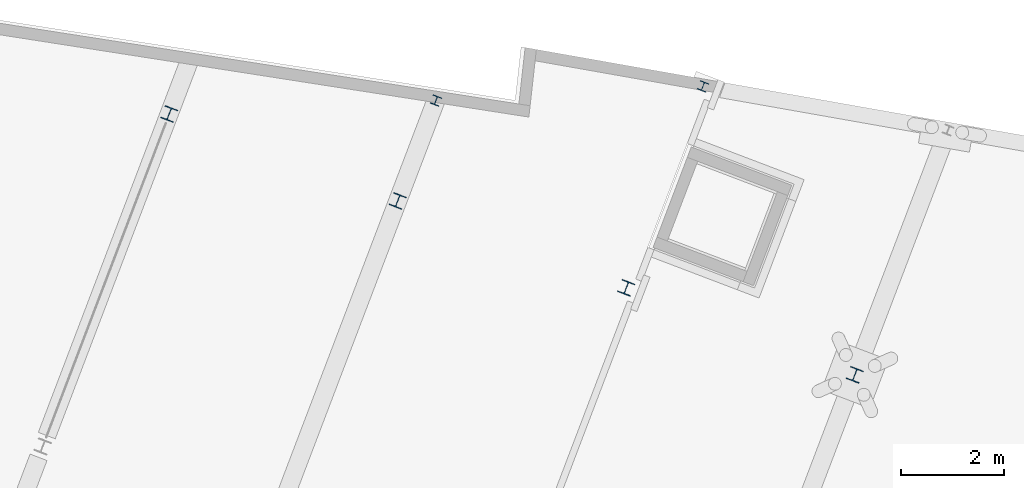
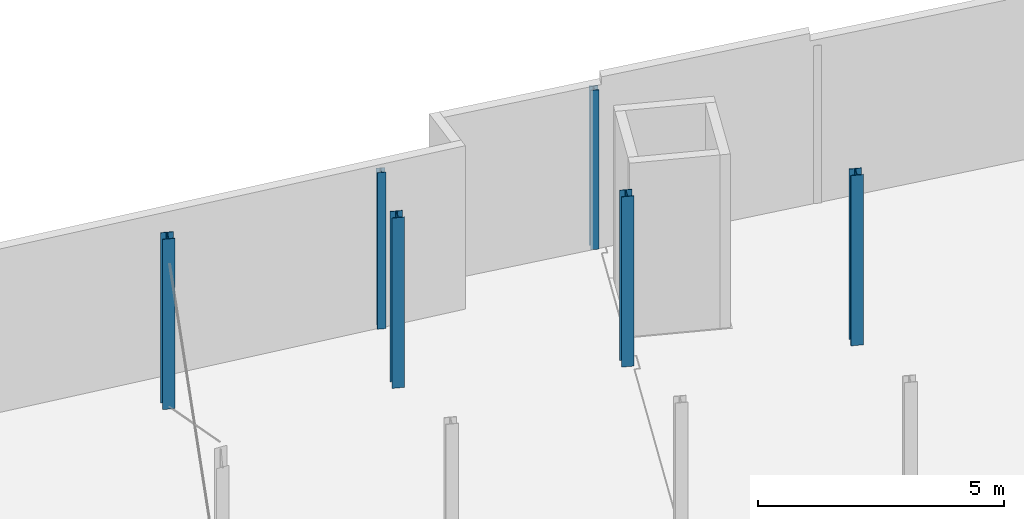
# One storey, part 35 of 46: 6 columns.
"""IFC2X3 building model written with IfcOpenShell, lengths in millimetres."""

from ifc_helpers import new_model, entity, si_unit, converted_unit, derived_unit, direction, frame, frame_2d, origin, origin_2d_with_axis, place, context, subcontext, project, spatial, i_section, extrude, source, transform, mapped, material, type_object, type_shapes, element, save


model = new_model("IFC2X3")

# Units and contexts
model_context = context("Model", 3, precision=0.01, world=origin(), true_north=direction((6.123233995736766e-17, 1.0)))
body_context = subcontext(model_context, "Body", "Model", "MODEL_VIEW")
ifc_project = project(units=[si_unit("LENGTHUNIT", "METRE", prefix="MILLI"), converted_unit("PLANEANGLEUNIT", "DEGREE", entity("IfcPlaneAngleMeasure", 0.017453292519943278), si_unit("PLANEANGLEUNIT", "RADIAN"), dimensions=[0, 0, 0, 0, 0, 0, 0]), si_unit("AREAUNIT", "SQUARE_METRE"), derived_unit("THERMALTRANSMITTANCEUNIT", [(si_unit("MASSUNIT", "GRAM", prefix="KILO"), 1), (si_unit("THERMODYNAMICTEMPERATUREUNIT", "KELVIN"), -1), (si_unit("TIMEUNIT", "SECOND"), -3)])], contexts=[model_context])

# Site, building, storey
site_placement = place(None, frame((-72937.88054949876, 11621.45624098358, 0.0), z_axis=(0.0, 0.0, 1.0), x_axis=(0.9346418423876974, -0.35559053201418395, 0.0)))
site = spatial("IfcSite", under=ifc_project, at=site_placement, Name="Default", CompositionType="ELEMENT")
building_placement = place(site_placement, origin())
building = spatial("IfcBuilding", under=site, at=building_placement, CompositionType="ELEMENT")
storey_placement = place(building_placement, origin())
storey = spatial("IfcBuildingStorey", under=building, at=storey_placement, Name="00 begane grond", CompositionType="ELEMENT", Elevation=0.0)

# Columns
ifc_material = material(Name="metaal_staal_generiek")
column_type_1 = type_object("IfcColumnType", Name="DIE26", PredefinedType="COLUMN", material=ifc_material)
shared_shape_1 = source(origin(), body_context, "Body", "SweptSolid", [
    extrude(i_section(OverallWidth=260.0, OverallDepth=249.99999999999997, WebThickness=7.499999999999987, FlangeThickness=12.5, FilletRadius=24.0, at=origin_2d_with_axis()), frame((0.0, 0.0, -60.0), z_axis=(0.0, 0.0, 1.0), x_axis=(-1.0, 0.0, 0.0)), (0.0, 0.0, 1.0), 4230.0),
])
type_shapes(column_type_1, [shared_shape_1])
for number, where in (
    (1, (57570.0, 28760.0, 0.0)),
    (2, (52840.0, 28760.0, 0.0)),
    (3, (48110.0, 28760.0, 0.0)),
    (4, (43380.0, 28760.0, 0.0)),
):
    element("IfcColumn", number, at=place(storey_placement, frame(where)), inside=storey, type_object=column_type_1, material=ifc_material, Name="28.11_SCO_KolomHEA:DIE26", ObjectType="28.11_SCO_KolomHEA:DIE26", context=body_context, shape_type="MappedRepresentation", body=[
        mapped(shared_shape_1, transform((0.0, 0.0, 0.0), scale=1.0)),
    ])
column_type_2 = type_object("IfcColumnType", Name="DIE18", PredefinedType="COLUMN", material=ifc_material)
shared_shape_2 = source(origin(), body_context, "Body", "SweptSolid", [
    extrude(i_section(OverallWidth=180.0000000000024, OverallDepth=171.0000000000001, WebThickness=5.999999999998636, FlangeThickness=9.500000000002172, FilletRadius=15.0, at=frame_2d((4.334310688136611e-12, 2.1671553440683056e-12), x_axis=(1.0, 0.0))), frame((48110.0, 30838.042665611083, -60.0), z_axis=(0.0, 0.0, 1.0), x_axis=(-1.0, 0.0, 0.0)), (0.0, 0.0, 1.0), 3888.999999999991),
])
type_shapes(column_type_2, [shared_shape_2])
column_1_placement = place(storey_placement, origin())
element("IfcColumn", 5, at=column_1_placement, inside=storey, type_object=column_type_2, material=ifc_material, Name="28.11_SCO_KolomHEA:DIE18", ObjectType="28.11_SCO_KolomHEA:DIE18", context=body_context, shape_type="MappedRepresentation", body=[
    mapped(shared_shape_2, transform((0.0, 0.0, 0.0), scale=1.0)),
])
column_type_3 = type_object("IfcColumnType", Name="DIE18", PredefinedType="COLUMN", material=ifc_material)
shared_shape_3 = source(origin(), body_context, "Body", "SweptSolid", [
    extrude(i_section(OverallWidth=180.0000000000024, OverallDepth=171.0000000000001, WebThickness=5.999999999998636, FlangeThickness=9.500000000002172, FilletRadius=15.0, at=frame_2d((-4.334310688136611e-12, 6.494360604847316e-12), x_axis=(1.0, 0.0))), frame((52840.0, 32931.269201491, -60.0), z_axis=(0.0, 0.0, 1.0), x_axis=(-1.0, 0.0, 0.0)), (0.0, 0.0, 1.0), 3959.9999999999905),
])
type_shapes(column_type_3, [shared_shape_3])
column_2_placement = place(storey_placement, origin())
element("IfcColumn", 6, at=column_2_placement, inside=storey, type_object=column_type_3, material=ifc_material, Name="28.11_SCO_KolomHEA:DIE18", ObjectType="28.11_SCO_KolomHEA:DIE18", context=body_context, shape_type="MappedRepresentation", body=[
    mapped(shared_shape_3, transform((0.0, 0.0, 0.0), scale=1.0)),
])

save(model, "model.ifc")
